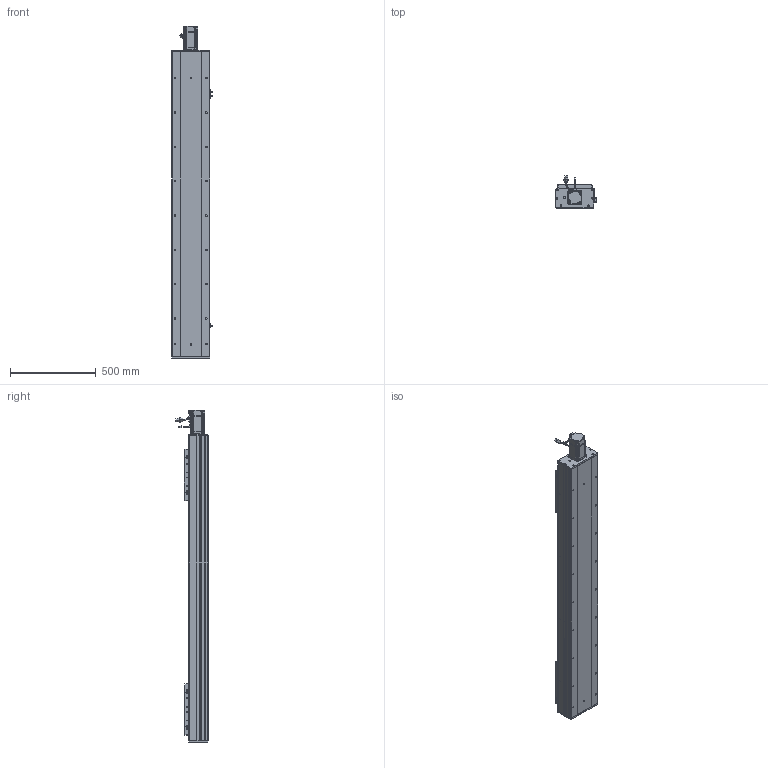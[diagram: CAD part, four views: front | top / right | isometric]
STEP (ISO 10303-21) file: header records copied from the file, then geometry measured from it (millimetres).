
FILE_DESCRIPTION (( 'STEP AP203' ), '1' );
FILE_NAME ('RY220F-L2525-300-MK.SLDASM_1350.step', '2022-07-04T01:04:04', ( '' ), ( '' ), 'SwSTEP 2.0', 'SolidWorks 2016', '' );
FILE_SCHEMA (( 'CONFIG_CONTROL_DESIGN' ));
Length unit declared in the file: millimetre
Products named in the file (15): 覜茼ん672; RY220F-滅鳥奻裔; RY220F-奻裔啣-300_1350; RY220电机支撑座FK20（PCD90M6）; RY220F-672覜茼んえ; 怢湛750W_ECMA-CX0807ES; RY220F菁釱MK-300_1350; RY220F臏賑釱25-32佪裝; 滅袉蝶18-20; RY220F-祥凄詩湍-MK-300_1350; RY220F綴裔啣; RY220F-詩湍揤踡輸; RY220F-L2525-300-MK.SLDASM_1350; 滅袉蝶18-24; RY220Fヶ裔啣
Assembly tree (23 placements, depth 2):
  RY220F-L2525-300-MK.SLDASM_1350
    RY220F菁釱MK-300_1350
    RY220电机支撑座FK20（PCD90M6）
    RY220F-奻裔啣-300_1350  x2
    怢湛750W_ECMA-CX0807ES
    RY220F臏賑釱25-32佪裝  x2
    RY220F-滅鳥奻裔  x2
    滅袉蝶18-20
    滅袉蝶18-24  x3
    RY220Fヶ裔啣
    RY220F綴裔啣
    RY220F-祥凄詩湍-MK-300_1350
    RY220F-詩湍揤踡輸  x2
    覜茼ん672  x3
    RY220F-672覜茼んえ  x2
Bounding box: 233.7 x 187.27 x 1934.3 mm (x, y, z)
Volume: 17157370.5 mm3; surface area: 4327327.6 mm2
Topology: 24 solids, 24 shells, 2806 faces, 7678 edges, 4742 vertices
Faces by surface type: cylinder 1274, plane 1030, cone 439, bspline 37, sphere 16, torus 10
Entity records: 70166 total; most frequent: CARTESIAN_POINT 18682, ORIENTED_EDGE 10410, DIRECTION 10186, EDGE_CURVE 5205, AXIS2_PLACEMENT_3D 3639, VERTEX_POINT 3382, LINE 2908, VECTOR 2908
